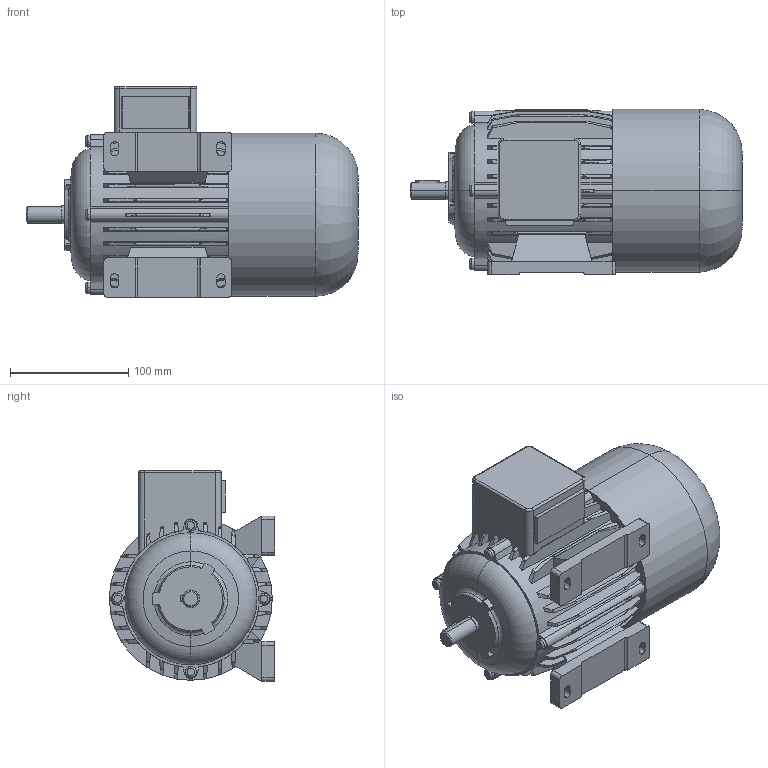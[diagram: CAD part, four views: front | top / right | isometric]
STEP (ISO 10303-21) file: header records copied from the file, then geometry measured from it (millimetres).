
FILE_DESCRIPTION(('OneSpaceDesigner STEP Export'),'2;1');
FILE_NAME('OG7_B3.stp','2008-04-18T11:07:09',(''),(''),'OneSpace Designer STEP processor (Jan. 2003) for AP214(CD)(Solid Model)','OneSpace Designer 12.01D 09-Jul-2004 (C) CoCreate Software GmbH','');
FILE_SCHEMA(('AUTOMOTIVE_DESIGN_CC2 {1 2 10303 214 -1 1 5 1}'));
Length unit declared in the file: millimetre
Products named in the file (2): OG7_B3
Assembly tree (1 placements, depth 2):
  OG7_B3
    OG7_B3
Bounding box: 281 x 140.01 x 178.5 mm (x, y, z)
Volume: 3448270.5 mm3; surface area: 198944.9 mm2
Topology: 1 solids, 1 shells, 452 faces, 1321 edges, 883 vertices
Faces by surface type: plane 149, cylinder 129, cone 105, torus 69
Entity records: 32116 total; most frequent: CARTESIAN_POINT 21733, ORIENTED_EDGE 2642, DIRECTION 1609, EDGE_CURVE 1321, VERTEX_POINT 883, AXIS2_PLACEMENT_3D 573, EDGE_LOOP 472, VECTOR 463
